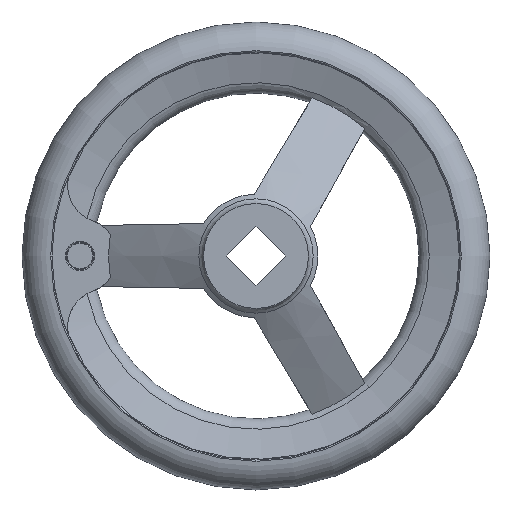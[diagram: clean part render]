
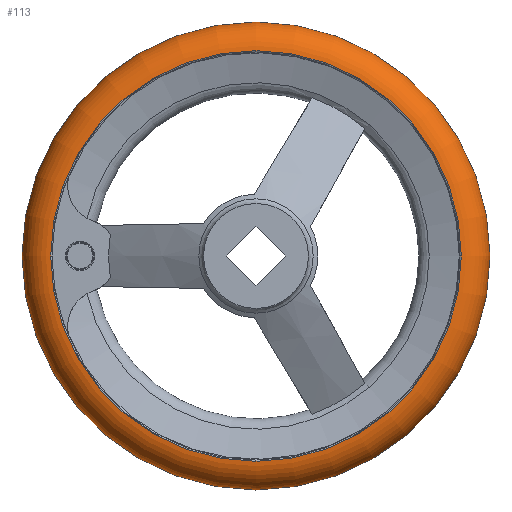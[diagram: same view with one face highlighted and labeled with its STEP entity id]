
A CAD part, left-side view. The second image highlights one B-rep face of the part: STEP entity #113.
In plain terms, the highlighted toroidal (fillet/blend) face has major radius 54.493 mm and minor radius 8.007 mm.
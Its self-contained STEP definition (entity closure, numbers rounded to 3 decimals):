
#113 = ADVANCED_FACE( '', ( #222, #223, #224 ), #225, .T. );
#222 = FACE_BOUND( '', #380, .T. );
#223 = FACE_OUTER_BOUND( '', #381, .T. );
#224 = FACE_OUTER_BOUND( '', #382, .T. );
#225 = TOROIDAL_SURFACE( '', #383, 54.493, 8.007 );
#380 = VERTEX_LOOP( '', #702 );
#381 = EDGE_LOOP( '', ( #703 ) );
#382 = EDGE_LOOP( '', ( #704 ) );
#383 = AXIS2_PLACEMENT_3D( '', #705, #706, #707 );
#702 = VERTEX_POINT( '', #885 );
#703 = ORIENTED_EDGE( '', *, *, #886, .T. );
#704 = ORIENTED_EDGE( '', *, *, #881, .F. );
#705 = CARTESIAN_POINT( '', ( 28., 0., 0. ) );
#706 = DIRECTION( '', ( 1., 0., 0. ) );
#707 = DIRECTION( '', ( 0., 1., 0. ) );
#881 = EDGE_CURVE( '', #1070, #1070, #1071, .T. );
#885 = CARTESIAN_POINT( '', ( 28., 62.5, 0. ) );
#886 = EDGE_CURVE( '', #1077, #1077, #1078, .T. );
#1070 = VERTEX_POINT( '', #1649 );
#1071 = CIRCLE( '', #1650, 54.833 );
#1077 = VERTEX_POINT( '', #1657 );
#1078 = CIRCLE( '', #1658, 54.833 );
#1649 = CARTESIAN_POINT( '', ( 36., 54.833, 0. ) );
#1650 = AXIS2_PLACEMENT_3D( '', #1827, #1828, #1829 );
#1657 = CARTESIAN_POINT( '', ( 20., 54.833, 0. ) );
#1658 = AXIS2_PLACEMENT_3D( '', #1837, #1838, #1839 );
#1827 = CARTESIAN_POINT( '', ( 36., 0., 0. ) );
#1828 = DIRECTION( '', ( 1., 0., 0. ) );
#1829 = DIRECTION( '', ( 0., 1., 0. ) );
#1837 = CARTESIAN_POINT( '', ( 20., 0., 0. ) );
#1838 = DIRECTION( '', ( 1., 0., 0. ) );
#1839 = DIRECTION( '', ( 0., 1., 0. ) );
